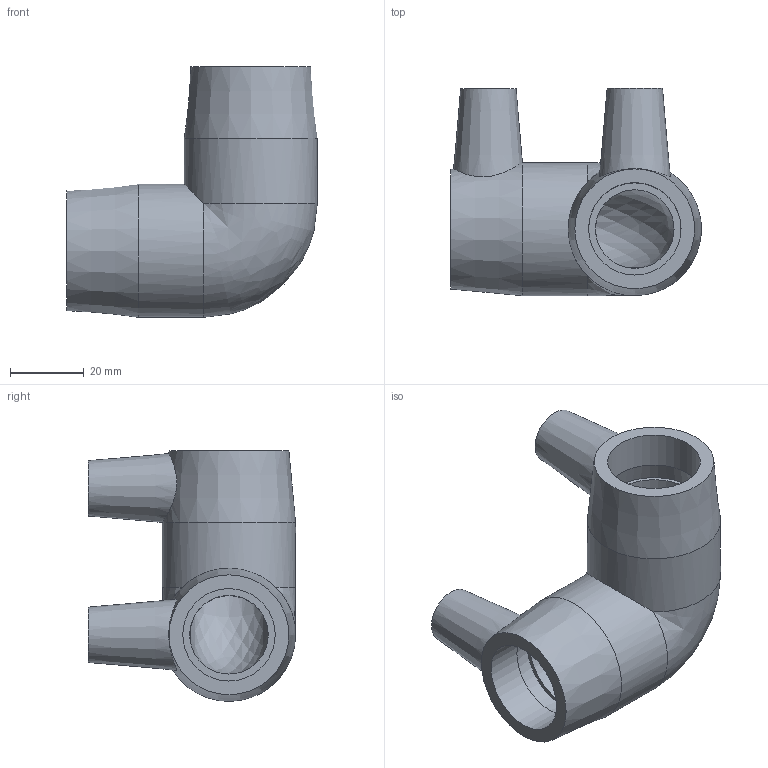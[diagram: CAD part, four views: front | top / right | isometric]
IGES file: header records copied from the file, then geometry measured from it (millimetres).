
Global section: file name: 490504025.ipt; native system: Autodesk Inventor 2015; preprocessor: unknown; author: KIM; date: 20171106.093624; units: millimetre
Bounding box: 67.79 x 56 x 67.8 mm (x, y, z)
Volume: 55975.2 mm3; surface area: 22022.2 mm2
Topology: 1 solids, 1 shells, 32 faces, 70 edges, 46 vertices
Faces by surface type: plane 12, revolution 11, cylinder 4, cone 4, bspline 1
Full cylindrical faces by diameter (mm): 4 x2, 36 x2
